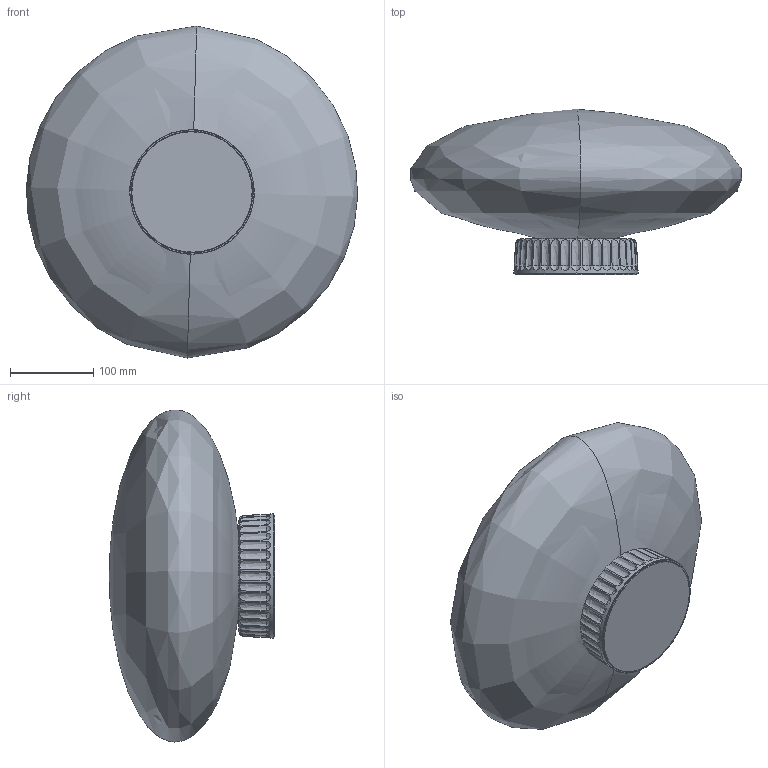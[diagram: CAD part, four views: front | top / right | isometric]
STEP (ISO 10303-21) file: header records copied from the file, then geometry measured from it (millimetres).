
FILE_DESCRIPTION(/* description */ (''),/* implementation_level */ '2;1');
FILE_NAME(/* name */ 'SEM.000233',/* time_stamp */ '2024-02-13T17:45:02+01:00',/* author */ (''),/* organization */ (''),/* preprocessor_version */ 'ST-DEVELOPER v16.5',/* originating_system */ 'Rhino 7.36',/* authorisation */ '');
FILE_SCHEMA (('CONFIG_CONTROL_DESIGN'));
Length unit declared in the file: millimetre
Products named in the file (3): Document; GOM.000018 01; VET.000076
Assembly tree (2 placements, depth 2):
  Document
    GOM.000018 01
    VET.000076
Bounding box: 398.99 x 199.47 x 399.76 mm (x, y, z)
Volume: 1485672 mm3; surface area: 738475.6 mm2
Topology: 5 solids, 5 shells, 215 faces, 588 edges, 391 vertices
Faces by surface type: bspline 160, plane 39, cylinder 16
Entity records: 12055 total; most frequent: CARTESIAN_POINT 8460, ORIENTED_EDGE 1168, EDGE_CURVE 584, VERTEX_POINT 391, B_SPLINE_CURVE_WITH_KNOTS 304, EDGE_LOOP 231, ADVANCED_FACE 215, FACE_OUTER_BOUND 215
